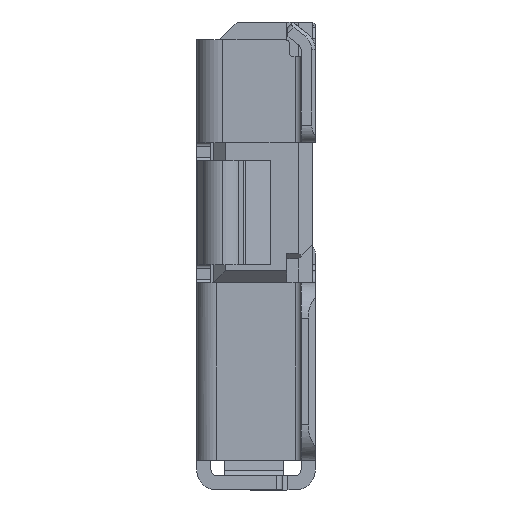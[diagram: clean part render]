
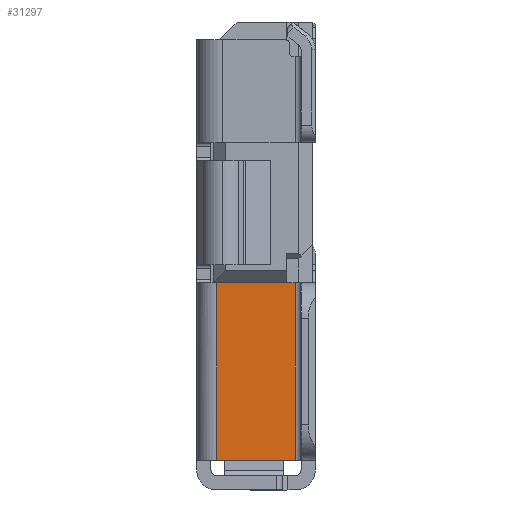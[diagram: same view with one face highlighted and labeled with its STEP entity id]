
A CAD part, left-side view. The second image highlights one B-rep face of the part: STEP entity #31297.
In plain terms, the highlighted planar face has unit normal (-1, 0, 0).
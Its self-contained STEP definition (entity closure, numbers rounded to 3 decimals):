
#29 = ORIENTED_EDGE ( 'NONE', *, *, #1737, .T. ) ;
#1699 = EDGE_CURVE ( 'NONE', #8252, #7535, #23497, .T. ) ;
#1737 = EDGE_CURVE ( 'NONE', #7553, #7325, #23615, .T. ) ;
#1788 = EDGE_CURVE ( 'NONE', #7325, #8250, #23775, .T. ) ;
#1801 = EDGE_CURVE ( 'NONE', #7553, #7535, #23816, .T. ) ;
#2390 = VECTOR ( 'NONE', #11863, 1000. ) ;
#5343 = VECTOR ( 'NONE', #23502, 1000. ) ;
#5963 = VECTOR ( 'NONE', #23624, 1000. ) ;
#7061 = ORIENTED_EDGE ( 'NONE', *, *, #1699, .T. ) ;
#7067 = ORIENTED_EDGE ( 'NONE', *, *, #1788, .T. ) ;
#7072 = ORIENTED_EDGE ( 'NONE', *, *, #1801, .F. ) ;
#7074 = ORIENTED_EDGE ( 'NONE', *, *, #15219, .T. ) ;
#7325 = VERTEX_POINT ( 'NONE', #9399 ) ;
#7535 = VERTEX_POINT ( 'NONE', #9609 ) ;
#7553 = VERTEX_POINT ( 'NONE', #9627 ) ;
#8250 = VERTEX_POINT ( 'NONE', #29135 ) ;
#8252 = VERTEX_POINT ( 'NONE', #29137 ) ;
#9399 = CARTESIAN_POINT ( 'NONE',  ( -7.235, 0.15, 0.3 ) ) ;
#9609 = CARTESIAN_POINT ( 'NONE',  ( -7.235, 0.81, -1.2 ) ) ;
#9627 = CARTESIAN_POINT ( 'NONE',  ( -7.235, 0.15, -1.2 ) ) ;
#11861 = LINE ( 'NONE', #11862, #2390 ) ;
#11862 = CARTESIAN_POINT ( 'NONE',  ( -7.235, 0.98, 0.3 ) ) ;
#11863 = DIRECTION ( 'NONE',  ( 0., 1., 0. ) ) ;
#15219 = EDGE_CURVE ( 'NONE', #8250, #8252, #11861, .T. ) ;
#17425 = AXIS2_PLACEMENT_3D ( 'NONE', #23981, #23987, #23988 ) ;
#20512 = VECTOR ( 'NONE', #23818, 1000. ) ;
#20629 = VECTOR ( 'NONE', #23777, 1000. ) ;
#22495 = EDGE_LOOP ( 'NONE', ( #7067, #7074, #7061, #7072, #29 ) ) ;
#23493 = CARTESIAN_POINT ( 'NONE',  ( -7.235, 0.81, -1.2 ) ) ;
#23497 = LINE ( 'NONE', #23493, #5343 ) ;
#23502 = DIRECTION ( 'NONE',  ( 0., 0., -1. ) ) ;
#23610 = CARTESIAN_POINT ( 'NONE',  ( -7.235, 0.15, 0.3 ) ) ;
#23615 = LINE ( 'NONE', #23610, #5963 ) ;
#23624 = DIRECTION ( 'NONE',  ( 0., 0., 1. ) ) ;
#23775 = LINE ( 'NONE', #23776, #20629 ) ;
#23776 = CARTESIAN_POINT ( 'NONE',  ( -7.235, 0.98, 0.3 ) ) ;
#23777 = DIRECTION ( 'NONE',  ( 0., 1., 0. ) ) ;
#23816 = LINE ( 'NONE', #23817, #20512 ) ;
#23817 = CARTESIAN_POINT ( 'NONE',  ( -7.235, 0.98, -1.2 ) ) ;
#23818 = DIRECTION ( 'NONE',  ( 0., 1., 0. ) ) ;
#23981 = CARTESIAN_POINT ( 'NONE',  ( -7.235, 0.98, -1.2 ) ) ;
#23984 = FACE_OUTER_BOUND ( 'NONE', #22495, .T. ) ;
#23985 = PLANE ( 'NONE',  #17425 ) ;
#23987 = DIRECTION ( 'NONE',  ( 1., 0., 0. ) ) ;
#23988 = DIRECTION ( 'NONE',  ( 0., 0., 1. ) ) ;
#29135 = CARTESIAN_POINT ( 'NONE',  ( -7.235, 0.22, 0.3 ) ) ;
#29137 = CARTESIAN_POINT ( 'NONE',  ( -7.235, 0.81, 0.3 ) ) ;
#31297 = ADVANCED_FACE ( 'NONE', ( #23984 ), #23985, .F. ) ;
